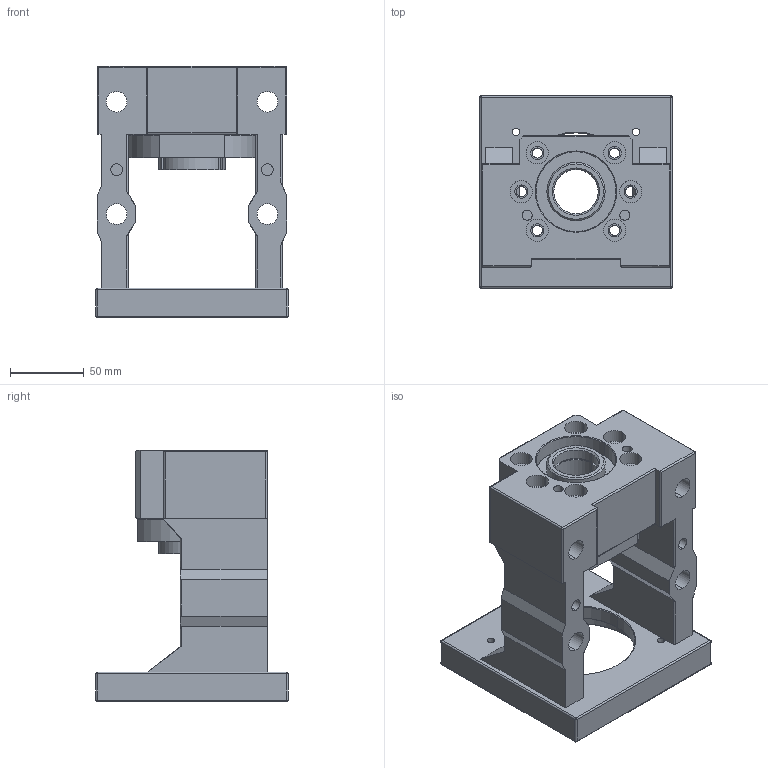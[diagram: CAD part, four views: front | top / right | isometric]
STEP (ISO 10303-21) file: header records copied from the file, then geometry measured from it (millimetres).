
FILE_DESCRIPTION((''),'2;1');
FILE_NAME('M100YP-BK30-C__ASM','2019-09-26T',('ASUS'),(''),'PRO/ENGINEER BY PARAMETRIC TECHNOLOGY CORPORATION, 2010280','PRO/ENGINEER BY PARAMETRIC TECHNOLOGY CORPORATION, 2010280','');
FILE_SCHEMA(('CONFIG_CONTROL_DESIGN'));
Length unit declared in the file: millimetre
Products named in the file (6): PRT0003; M100Y-BK30-C-03_______; M100YP-SBK25-C-01_____; M100Y-BK30-C-02_______; M100YP-BK30-C____________ASM; M100YP-BK30-C__ASM
Assembly tree (6 placements, depth 3):
  M100YP-BK30-C__ASM
    M100YP-BK30-C____________ASM
      PRT0003
      M100Y-BK30-C-03_______  x2
      M100YP-SBK25-C-01_____
      M100Y-BK30-C-02_______
Bounding box: 130 x 130 x 170 mm (x, y, z)
Volume: 883107.9 mm3; surface area: 160561.2 mm2
Topology: 5 solids, 5 shells, 283 faces, 707 edges, 438 vertices
Faces by surface type: cylinder 145, plane 87, cone 33, sphere 12, torus 4, extrusion 2
Entity records: 8471 total; most frequent: CARTESIAN_POINT 1680, DIRECTION 1455, ORIENTED_EDGE 1334, EDGE_CURVE 667, AXIS2_PLACEMENT_3D 554, VERTEX_POINT 422, VECTOR 347, LINE 345
